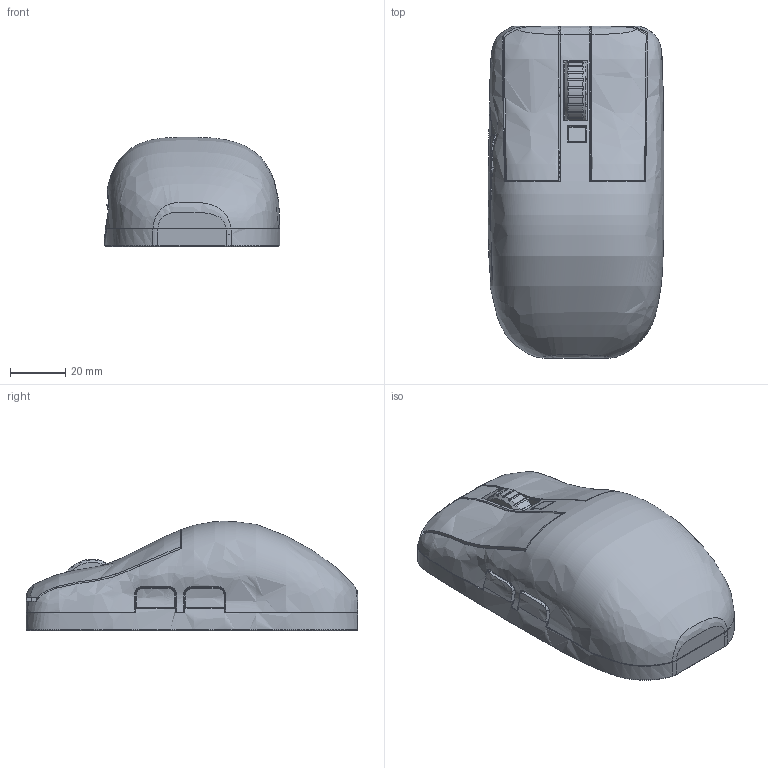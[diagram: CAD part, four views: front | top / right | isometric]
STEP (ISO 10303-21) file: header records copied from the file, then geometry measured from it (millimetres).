
FILE_DESCRIPTION(('Open CASCADE Model'),'2;1');
FILE_NAME('mouse_assembly','2026-11-26T01:46:00',('Author'),( 'Open CASCADE'),'Open CASCADE STEP processor 7.9','build123d', 'Unknown');
FILE_SCHEMA(('AUTOMOTIVE_DESIGN { 1 0 10303 214 1 1 1 1 }'));
Length unit declared in the file: millimetre
Products named in the file (40): mouse_assembly; mouse_pcb (original STEP, unmoved); pcb65_smd49; pcb66_smd50; pcb67_smd51; pcb05_smd5; pcb06_smd6; pcb58_SW_mainL_body; pcb16_PMW3360; pcb17_PMW3360; pcb18_PMW3360; pcb19_PMW3360; pcb20_PMW3360; pcb21_PMW3360; pcb22_PMW3360; pcb23_PMW3360; pcb24_PMW3360; pcb25_PMW3360; pcb26_PMW3360; pcb27_PMW3360; pcb28_PMW3360; pcb29_PMW3360; pcb30_PMW3360; pcb31_PMW3360; pcb32_PMW3360; pcb62_smd46; pcb46_USB_header; pcb55_smd39; pcb59_EC10E; pcb68_board; bottom_shell; top_shell; button_L; button_R; wheel_body; axle_pin; wheel_yoke; dpi_button; side_btn_fwd; side_btn_back
Assembly tree (80 placements, depth 3):
  mouse_assembly
    mouse_pcb (original STEP, unmoved)
      pcb65_smd49  x12
      pcb66_smd50  x19
      pcb67_smd51  x7
      pcb05_smd5
      pcb06_smd6
      pcb58_SW_mainL_body  x6
      pcb16_PMW3360
      pcb17_PMW3360
      pcb18_PMW3360
      pcb19_PMW3360
      pcb20_PMW3360
      pcb21_PMW3360
      pcb22_PMW3360
      pcb23_PMW3360
      pcb24_PMW3360
      pcb25_PMW3360
      pcb26_PMW3360
      pcb27_PMW3360
      pcb28_PMW3360
      pcb29_PMW3360
      pcb30_PMW3360
      pcb31_PMW3360
      pcb32_PMW3360
      pcb62_smd46  x2
      pcb46_USB_header
      pcb55_smd39
      pcb59_EC10E
      pcb68_board
    bottom_shell
    top_shell
    button_L
    button_R
    wheel_body
    axle_pin
    wheel_yoke
    dpi_button
    side_btn_fwd
    side_btn_back
Bounding box: 63.5 x 120 x 39.48 mm (x, y, z)
Volume: 57848.2 mm3; surface area: 63687.6 mm2
Topology: 79 solids, 79 shells, 3544 faces, 9272 edges, 6018 vertices
Faces by surface type: plane 2311, cylinder 721, bspline 501, revolution 8, cone 3
Full cylindrical faces by diameter (mm): 0.35 x9, 0.5 x17, 0.7 x16, 1 x5, 1.2 x18, 1.5 x4, 1.6 x6, 1.7 x4, 2 x8, 2.2 x4, 2.4 x5, 3 x1, 3.2 x3, 3.6 x1, 3.8 x1, 4.4 x3, 4.5 x4, 5.2 x2, 6 x6, 14 x1, 22 x1
Entity records: 1446603 total; most frequent: CARTESIAN_POINT 1340740, DIRECTION 17188, LINE 11469, VECTOR 11469, PCURVE 10870, DEFINITIONAL_REPRESENTATION 10870, ORIENTED_EDGE 10868, EDGE_CURVE 5435
